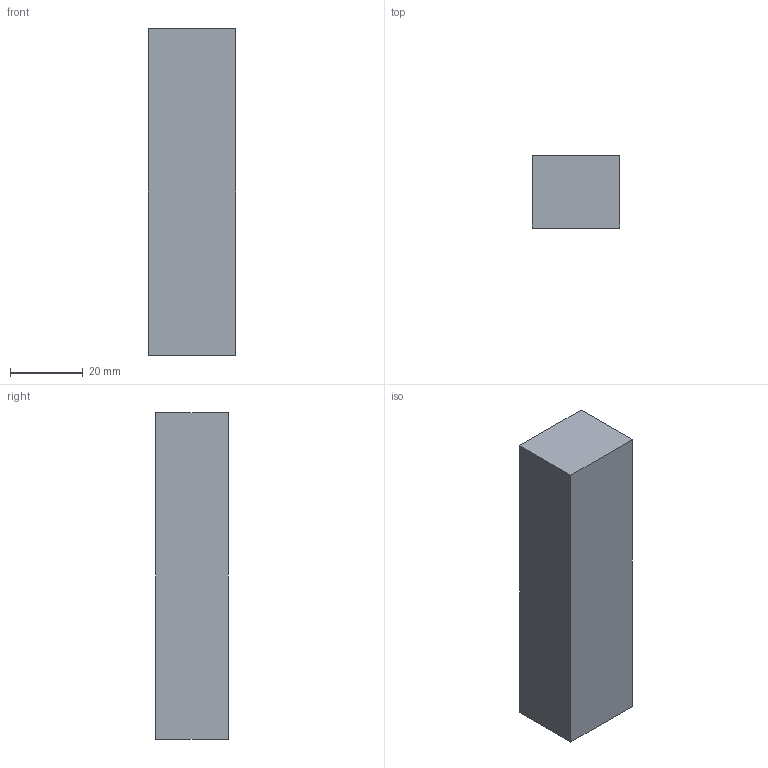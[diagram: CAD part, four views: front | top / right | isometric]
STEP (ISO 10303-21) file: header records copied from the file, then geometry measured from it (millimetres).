
FILE_DESCRIPTION(('Open CASCADE Model'),'2;1');
FILE_NAME('Open CASCADE Shape Model','2026-10-04T01:02:27',('Author'),( 'Open CASCADE'),'Open CASCADE STEP processor 8.0','Open CASCADE 8.0' ,'Unknown');
FILE_SCHEMA(('AUTOMOTIVE_DESIGN { 1 0 10303 214 1 1 1 1 }'));
Length unit declared in the file: millimetre
Products named in the file (1): Open CASCADE STEP translator 8.0 80
Bounding box: 24 x 20 x 90 mm (x, y, z)
Volume: 43200 mm3; surface area: 8880 mm2
Topology: 1 solids, 1 shells, 6 faces, 12 edges, 8 vertices
Faces by surface type: plane 6
Entity records: 322 total; most frequent: CARTESIAN_POINT 51, DIRECTION 50, LINE 36, VECTOR 36, ORIENTED_EDGE 24, PCURVE 24, DEFINITIONAL_REPRESENTATION 24, EDGE_CURVE 12
